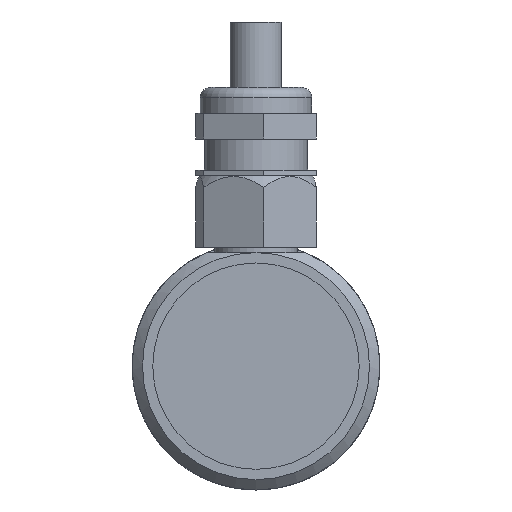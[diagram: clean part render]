
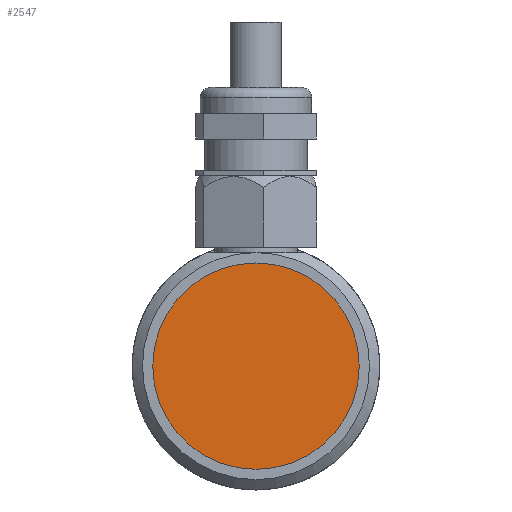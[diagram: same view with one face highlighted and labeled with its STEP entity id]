
A CAD part, left-side view. The second image highlights one B-rep face of the part: STEP entity #2547.
In plain terms, the highlighted planar face has unit normal (-1, 0, 0).
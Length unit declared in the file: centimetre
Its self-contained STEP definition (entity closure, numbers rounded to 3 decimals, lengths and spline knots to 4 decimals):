
#473=PLANE('',#2728);
#1057=VERTEX_POINT('',#6062);
#1168=CIRCLE('',#2726,1.);
#1435=EDGE_CURVE('',#1057,#1057,#1168,.T.);
#1922=ORIENTED_EDGE('',*,*,#1435,.T.);
#2235=EDGE_LOOP('',(#1922));
#2394=FACE_BOUND('',#2235,.T.);
#2547=ADVANCED_FACE('',(#2394),#473,.T.);
#2726=AXIS2_PLACEMENT_3D('',#6061,#6545,#6546);
#2728=AXIS2_PLACEMENT_3D('',#6065,#6549,$);
#6061=CARTESIAN_POINT('',(0.1,0.,0.));
#6062=CARTESIAN_POINT('',(0.1,0.,1.));
#6065=CARTESIAN_POINT('',(0.1,0.,0.));
#6545=DIRECTION('',(-1.,0.,0.));
#6546=DIRECTION('',(0.,0.,1.));
#6549=DIRECTION('',(-1.,0.,0.));
